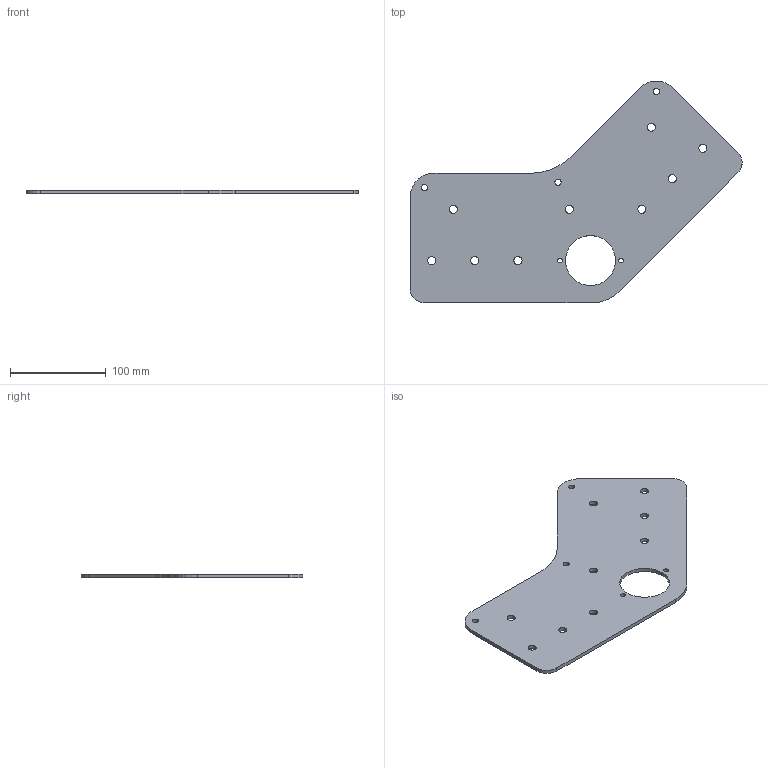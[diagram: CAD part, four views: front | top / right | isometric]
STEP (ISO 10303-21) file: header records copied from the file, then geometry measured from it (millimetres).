
FILE_DESCRIPTION (( 'STEP AP203' ), '1' );
FILE_NAME ('084.830.101.STEP', '2018-03-12T07:32:40', ( '' ), ( '' ), 'SwSTEP 2.0', 'SolidWorks 2016', '' );
FILE_SCHEMA (( 'CONFIG_CONTROL_DESIGN' ));
Length unit declared in the file: millimetre
Products named in the file (1): 084.830.101
Bounding box: 346.01 x 230.93 x 4 mm (x, y, z)
Volume: 180292.9 mm3; surface area: 95911.8 mm2
Topology: 1 solids, 1 shells, 44 faces, 126 edges, 84 vertices
Faces by surface type: cylinder 36, plane 8
Entity records: 1619 total; most frequent: DIRECTION 288, CARTESIAN_POINT 255, ORIENTED_EDGE 252, EDGE_CURVE 126, AXIS2_PLACEMENT_3D 117, VERTEX_POINT 84, EDGE_LOOP 74, CIRCLE 72
